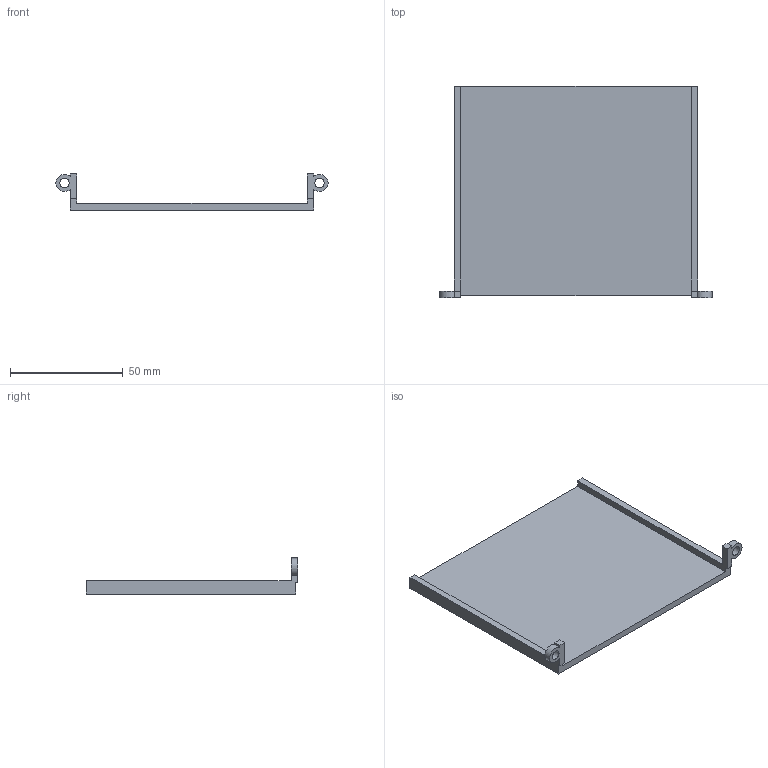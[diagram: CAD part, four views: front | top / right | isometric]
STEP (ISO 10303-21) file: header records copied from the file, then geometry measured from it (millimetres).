
FILE_DESCRIPTION(('FreeCAD Model'),'2;1');
FILE_NAME('Open CASCADE Shape Model','2026-10-14T02:29:02',('FreeCAD'),( 'FreeCAD'),'Open CASCADE STEP processor 7.8','FreeCAD','Unknown');
FILE_SCHEMA(('AUTOMOTIVE_DESIGN { 1 0 10303 214 1 1 1 1 }'));
Length unit declared in the file: millimetre
Products named in the file (1): Open CASCADE STEP translator 7.8 49
Bounding box: 120.59 x 93.8 x 16 mm (x, y, z)
Volume: 32081.7 mm3; surface area: 22909.8 mm2
Topology: 1 solids, 1 shells, 24 faces, 70 edges, 48 vertices
Faces by surface type: plane 20, cylinder 4
Full cylindrical faces by diameter (mm): 4.2 x2
Entity records: 816 total; most frequent: CARTESIAN_POINT 143, ORIENTED_EDGE 140, DIRECTION 132, EDGE_CURVE 70, LINE 58, VECTOR 58, VERTEX_POINT 48, AXIS2_PLACEMENT_3D 37
